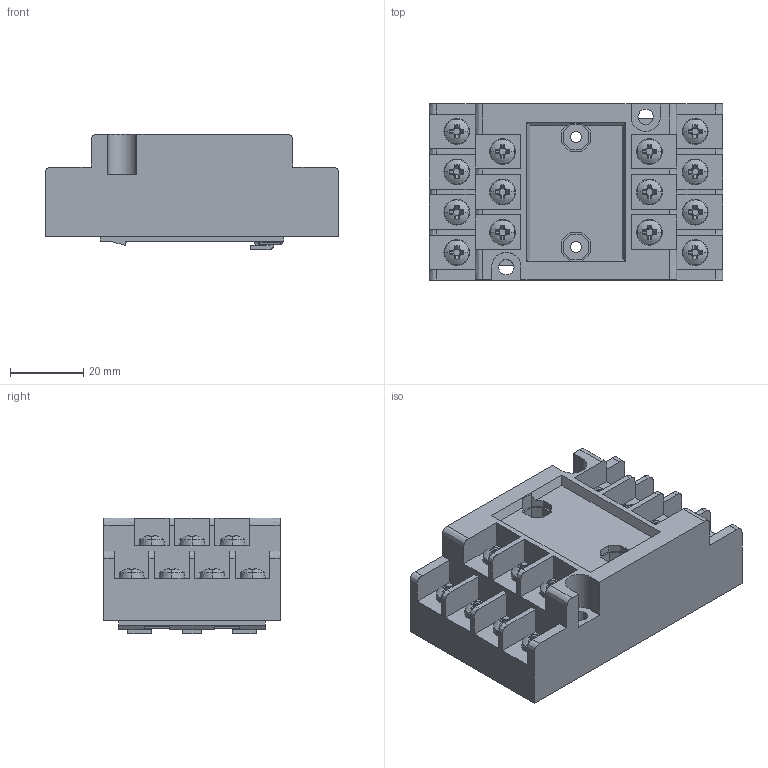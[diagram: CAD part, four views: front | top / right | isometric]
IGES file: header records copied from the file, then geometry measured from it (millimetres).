
Global section: file name: No Iges File Name specified; native system: Autodesk Inventor 2009; preprocessor: AutoDesk Inventor Iges Exporter R2009; author: Niriawan; date: 20080818.094911; units: millimetre
Bounding box: 80 x 48 x 31.6 mm (x, y, z)
Volume: 82529.4 mm3; surface area: 20529.3 mm2
Topology: 1 solids, 17 shells, 768 faces, 2108 edges, 1363 vertices
Faces by surface type: plane 435, cone 196, bspline 86, sphere 32, cylinder 13, revolution 6
